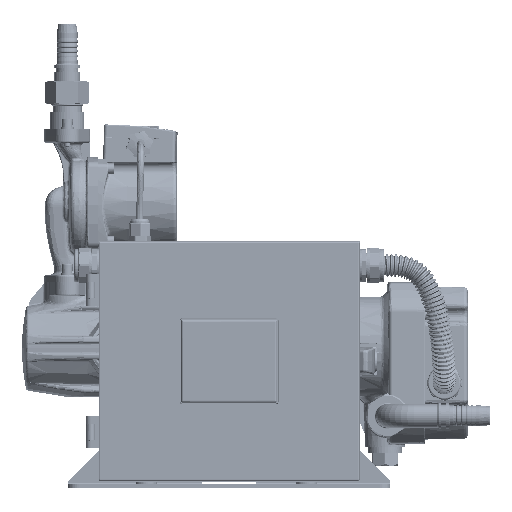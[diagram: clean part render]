
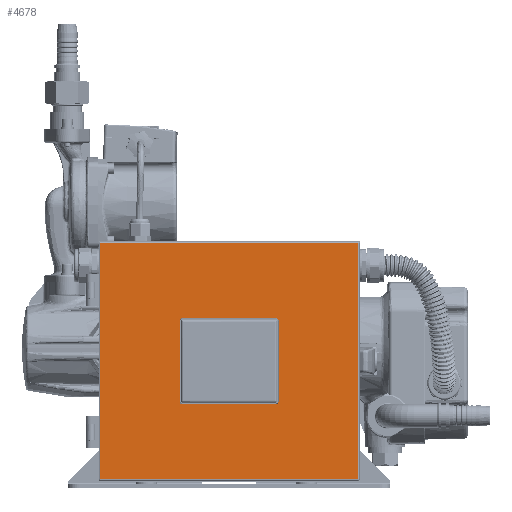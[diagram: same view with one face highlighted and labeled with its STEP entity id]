
A CAD part, top view. The second image highlights one B-rep face of the part: STEP entity #4678.
In plain terms, the highlighted planar face has unit normal (0, 0, 1).
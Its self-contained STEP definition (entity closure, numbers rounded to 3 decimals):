
#4670=AXIS2_PLACEMENT_3D('Plane Axis2P3D',#4667,#4668,#4669) ;
#4379=CARTESIAN_POINT('Vertex',(120.5,8.,142.5)) ;
#4539=CARTESIAN_POINT('Vertex',(120.5,229.,142.5)) ;
#4542=CARTESIAN_POINT('Line Origine',(120.5,6.5,142.5)) ;
#4563=CARTESIAN_POINT('Vertex',(-120.5,8.,142.5)) ;
#4566=CARTESIAN_POINT('Line Origine',(121.5,8.,142.5)) ;
#4587=CARTESIAN_POINT('Vertex',(-120.5,229.,142.5)) ;
#4595=CARTESIAN_POINT('Line Origine',(-120.5,6.5,142.5)) ;
#4633=CARTESIAN_POINT('Line Origine',(121.5,229.,142.5)) ;
#4667=CARTESIAN_POINT('Axis2P3D Location',(121.5,6.5,142.5)) ;
#4543=DIRECTION('Vector Direction',(0.,1.,0.)) ;
#4567=DIRECTION('Vector Direction',(1.,0.,0.)) ;
#4596=DIRECTION('Vector Direction',(0.,-1.,0.)) ;
#4634=DIRECTION('Vector Direction',(-1.,0.,0.)) ;
#4668=DIRECTION('Axis2P3D Direction',(0.,0.,-1.)) ;
#4669=DIRECTION('Axis2P3D XDirection',(1.,0.,0.)) ;
#4544=VECTOR('Line Direction',#4543,1.) ;
#4568=VECTOR('Line Direction',#4567,1.) ;
#4597=VECTOR('Line Direction',#4596,1.) ;
#4635=VECTOR('Line Direction',#4634,1.) ;
#4673=ORIENTED_EDGE('',*,*,#4637,.T.) ;
#4674=ORIENTED_EDGE('',*,*,#4599,.T.) ;
#4675=ORIENTED_EDGE('',*,*,#4570,.T.) ;
#4676=ORIENTED_EDGE('',*,*,#4546,.T.) ;
#4678=ADVANCED_FACE('\X2\4FA763027BB1\X0\\\\X2\67DC95E8\X0\\\NONE',(#4677),#4671,.F.) ;
#4546=EDGE_CURVE('',#4380,#4540,#4545,.T.) ;
#4570=EDGE_CURVE('',#4564,#4380,#4569,.T.) ;
#4599=EDGE_CURVE('',#4588,#4564,#4598,.T.) ;
#4637=EDGE_CURVE('',#4540,#4588,#4636,.T.) ;
#4672=EDGE_LOOP('',(#4673,#4674,#4675,#4676)) ;
#4677=FACE_OUTER_BOUND('',#4672,.T.) ;
#4545=LINE('Line',#4542,#4544) ;
#4569=LINE('Line',#4566,#4568) ;
#4598=LINE('Line',#4595,#4597) ;
#4636=LINE('Line',#4633,#4635) ;
#4671=PLANE('',#4670) ;
#4380=VERTEX_POINT('',#4379) ;
#4540=VERTEX_POINT('',#4539) ;
#4564=VERTEX_POINT('',#4563) ;
#4588=VERTEX_POINT('',#4587) ;
